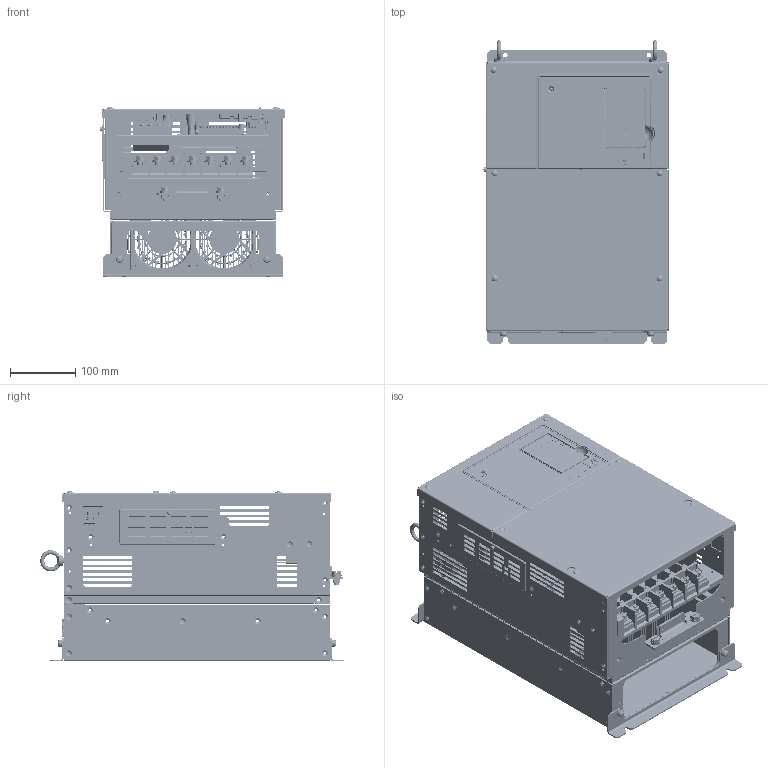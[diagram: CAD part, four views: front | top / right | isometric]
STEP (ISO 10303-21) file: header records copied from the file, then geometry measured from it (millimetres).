
FILE_DESCRIPTION((''),'2;1');
FILE_NAME('CIMR-DC4A0040AAA_ASM','2014-01-31T',('takeyama'),('YASKAWA ELECTRIC CORCORATION'),'PRO/ENGINEER BY PARAMETRIC TECHNOLOGY CORPORATION, 2011330','PRO/ENGINEER BY PARAMETRIC TECHNOLOGY CORPORATION, 2011330','');
FILE_SCHEMA(('AUTOMOTIVE_DESIGN { 1 0 10303 214 1 1 1 1 }'));
Products named in the file (10): CIMR-DC4A0040AAA_CASE; CIMR-DC4A0040AAA_BRACKET_1; CIMR-DC4A0040AAA_BRACKET_2; CIMR-DC4A0040AAA_FUSE; CIMR-DC4A0040AAA_DIGO; CIMR-DC4A0040AAA_ETC740520; CIMR-DC4A0040AAA_COVER1; CIMR-DC4A0040AAA_COVER2; CIMR-DC4A0040AAA_COVER3; CIMR-DC4A0040AAA_ASM
Assembly tree (9 placements, depth 2):
  CIMR-DC4A0040AAA_ASM
    CIMR-DC4A0040AAA_CASE
    CIMR-DC4A0040AAA_BRACKET_1
    CIMR-DC4A0040AAA_BRACKET_2
    CIMR-DC4A0040AAA_FUSE
    CIMR-DC4A0040AAA_DIGO
    CIMR-DC4A0040AAA_ETC740520
    CIMR-DC4A0040AAA_COVER1
    CIMR-DC4A0040AAA_COVER2
    CIMR-DC4A0040AAA_COVER3
Bounding box: 283.5 x 465.2 x 260.74 mm (x, y, z)
Volume: 4110074.5 mm3; surface area: 4062598.9 mm2
Topology: 27 solids, 28 shells, 30157 faces, 79522 edges, 49875 vertices
Faces by surface type: plane 18808, cylinder 6320, bspline 2170, cone 1449, torus 756, sphere 654
Entity records: 1283393 total; most frequent: CARTESIAN_POINT 350603, ORIENTED_EDGE 158674, DIRECTION 140229, EDGE_CURVE 79337, VECTOR 56919, LINE 56919, VERTEX_POINT 49871, AXIS2_PLACEMENT_3D 41655
